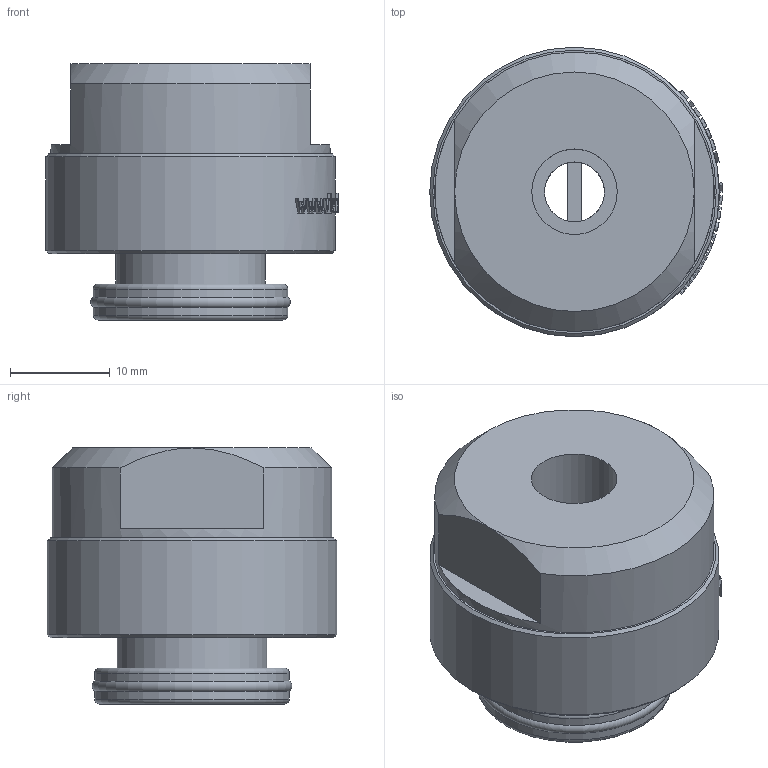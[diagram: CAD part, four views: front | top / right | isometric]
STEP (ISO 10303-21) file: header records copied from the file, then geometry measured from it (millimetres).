
FILE_DESCRIPTION( ( 'Unknown' ), '1' );
FILE_NAME( 'C:/Documents and Settings/owner/官帕 拳搁/MISUMI/PAD/KPS/KPS-5-15-N-18F.stp', 'Unknown', ( 'Unknown' ), ( 'Unknown' ), 'XStep 1.0', 'Unknown', ' ' );
FILE_SCHEMA( ( 'automotive_design' ) );
Length unit declared in the file: millimetre
Products named in the file (3): Assem1; 1_0; KPS5(-15) 18F
Bounding box: 29.3 x 29 x 25.65 mm (x, y, z)
Surface area: 12691.6 mm2
Topology: 4 solids, 4 shells, 490 faces, 1244 edges, 824 vertices
Faces by surface type: plane 240, bspline 144, cylinder 82, cone 14, torus 10
Full cylindrical faces by diameter (mm): 6 x4, 8.566 x4, 8.8 x2, 9 x2, 10 x2, 14 x2, 15 x2, 19.5 x6, 28 x2, 29 x2
Entity records: 10896 total; most frequent: CARTESIAN_POINT 5300, ORIENTED_EDGE 1168, DIRECTION 900, EDGE_CURVE 584, VERTEX_POINT 400, AXIS2_PLACEMENT_3D 322, EDGE_LOOP 308, FACE_OUTER_BOUND 264
